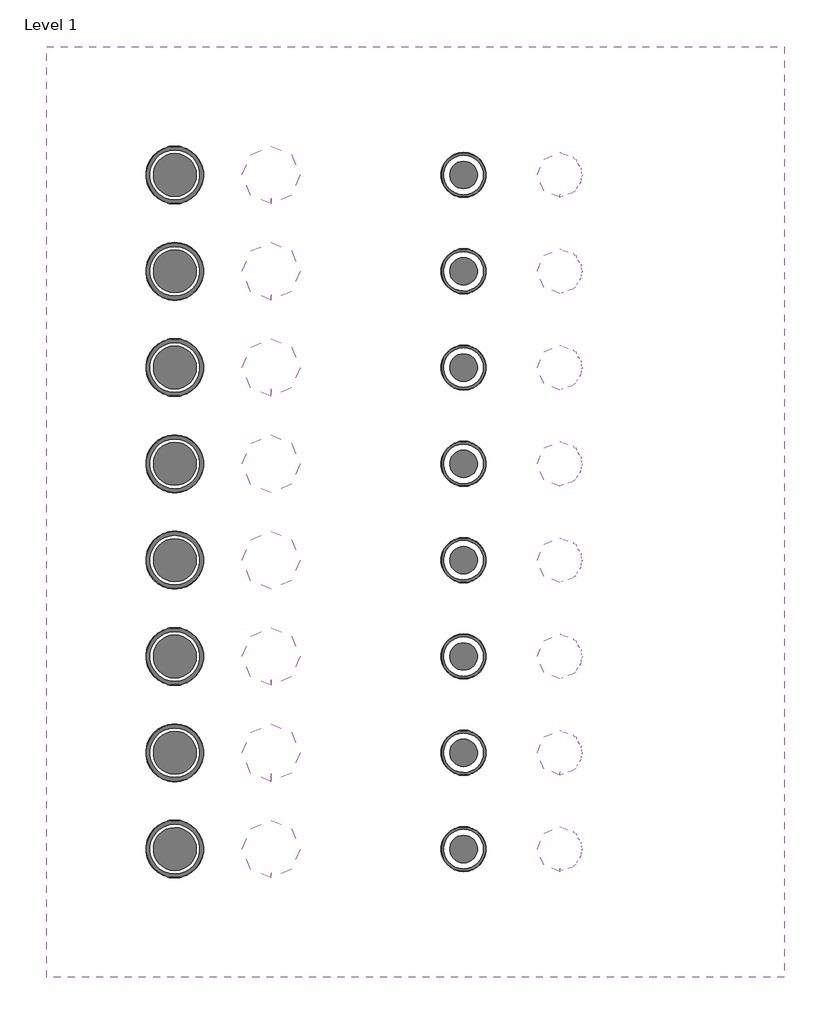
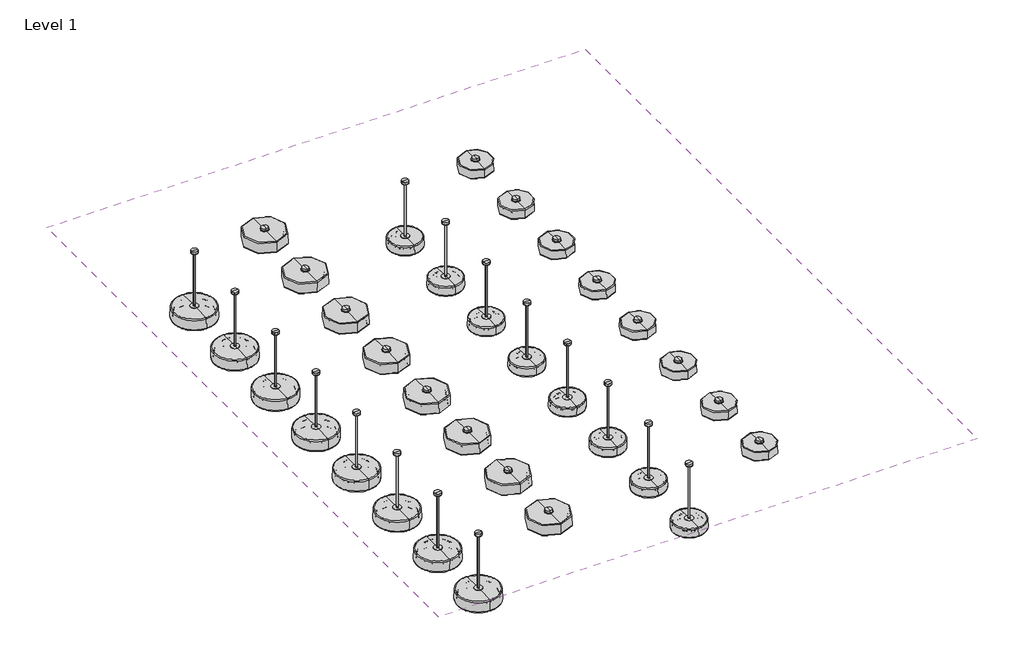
# One storey, incomplete: 32 light fixtures, 1 covering.
"""IFC4 building model written with IfcOpenShell, lengths in millimetres."""

from ifc_helpers import new_model, si_unit, frame, origin, place, context, project, spatial, polyline, outline, extrude, transform, mapped, element, save
from components import light_fixture_47f498ca, light_fixture_287bd3e8, light_fixture_3f8612d6, light_fixture_03dc277a

model = new_model("IFC4")

# Units and contexts
model_context = context("Model", 3, world=origin())
ifc_project = project(units=[si_unit("LENGTHUNIT", "METRE", prefix="MILLI")], contexts=[model_context])

# Site, building, storey
site = spatial("IfcSite", under=ifc_project)
building = spatial("IfcBuilding", under=site)
storey = spatial("IfcBuildingStorey", under=building, Name="Level 1", Elevation=0.0)

# Covering
placement = place(None, origin())
element("IfcCovering", 1, ObjectType="Plain", at=placement, inside=storey, context=model_context, shape_type="SweptSolid", body=[
    extrude(outline(polyline([(3907.6912422, 6634.5769084), (3907.6912422, -7865.4230916), (-7592.3087578, -7865.4230916), (-7592.3087578, 6634.5769084), (3907.6912422, 6634.5769084)])), frame((0.0, 0.0, 2600.0), z_axis=(0.0, 0.0, 1.0), x_axis=(1.0, 0.0, 0.0)), (0.0, 0.0, 1.0), 57.0),
])

# Light fixtures
light_fixture_shape = light_fixture_47f498ca(model_context)
element("IfcLightFixture", 2, ObjectType="MARSET_Interior-Lighting-Fixture_Face-Based_Ringo-70C : A732-001-53-3CCT", at=placement, inside=storey, context=model_context, shape_type="MappedRepresentation", body=[
    mapped(light_fixture_shape, transform((407.6912422, 4634.5769084, 2600.0), x_axis=(1.0, 0.0, 0.0), y_axis=(0.0, -1.0, 0.0), z_axis=(0.0, 0.0, -1.0))),
])
element("IfcLightFixture", 3, ObjectType="MARSET_Interior-Lighting-Fixture_Face-Based_Ringo-70C : A732-001-62-3CCT", at=placement, inside=storey, context=model_context, shape_type="MappedRepresentation", body=[
    mapped(light_fixture_shape, transform((407.6912422, 1634.5769084, 2600.0), x_axis=(1.0, 0.0, 0.0), y_axis=(0.0, -1.0, 0.0), z_axis=(0.0, 0.0, -1.0))),
])
element("IfcLightFixture", 4, ObjectType="MARSET_Interior-Lighting-Fixture_Face-Based_Ringo-70C : A732-001-63-3CCT", at=placement, inside=storey, context=model_context, shape_type="MappedRepresentation", body=[
    mapped(light_fixture_shape, transform((407.6912422, 134.5769084, 2600.0), x_axis=(1.0, 0.0, 0.0), y_axis=(0.0, -1.0, 0.0), z_axis=(0.0, 0.0, -1.0))),
])
element("IfcLightFixture", 5, ObjectType="MARSET_Interior-Lighting-Fixture_Face-Based_Ringo-70C : A732-001-57-3CCT", at=placement, inside=storey, context=model_context, shape_type="MappedRepresentation", body=[
    mapped(light_fixture_shape, transform((407.6912422, 3134.5769084, 2600.0), x_axis=(1.0, 0.0, 0.0), y_axis=(0.0, -1.0, 0.0), z_axis=(0.0, 0.0, -1.0))),
])
element("IfcLightFixture", 6, ObjectType="MARSET_Interior-Lighting-Fixture_Face-Based_Ringo-70C : A732-002-53-3CCT", at=placement, inside=storey, context=model_context, shape_type="MappedRepresentation", body=[
    mapped(light_fixture_shape, transform((407.6912422, -1365.4230916, 2600.0), x_axis=(1.0, 0.0, 0.0), y_axis=(0.0, -1.0, 0.0), z_axis=(0.0, 0.0, -1.0))),
])
element("IfcLightFixture", 7, ObjectType="MARSET_Interior-Lighting-Fixture_Face-Based_Ringo-70C : A732-002-62-3CCT", at=placement, inside=storey, context=model_context, shape_type="MappedRepresentation", body=[
    mapped(light_fixture_shape, transform((407.6912422, -4365.4230916, 2600.0), x_axis=(1.0, 0.0, 0.0), y_axis=(0.0, -1.0, 0.0), z_axis=(0.0, 0.0, -1.0))),
])
element("IfcLightFixture", 8, ObjectType="MARSET_Interior-Lighting-Fixture_Face-Based_Ringo-70C : A732-002-63-3CCT", at=placement, inside=storey, context=model_context, shape_type="MappedRepresentation", body=[
    mapped(light_fixture_shape, transform((407.6912422, -5865.4230916, 2600.0), x_axis=(1.0, 0.0, 0.0), y_axis=(0.0, -1.0, 0.0), z_axis=(0.0, 0.0, -1.0))),
])
element("IfcLightFixture", 9, ObjectType="MARSET_Interior-Lighting-Fixture_Face-Based_Ringo-70C : A732-002-57-3CCT", at=placement, inside=storey, context=model_context, shape_type="MappedRepresentation", body=[
    mapped(light_fixture_shape, transform((407.6912422, -2865.4230916, 2600.0), x_axis=(1.0, 0.0, 0.0), y_axis=(0.0, -1.0, 0.0), z_axis=(0.0, 0.0, -1.0))),
])
light_fixture_2_shape = light_fixture_287bd3e8(model_context)
element("IfcLightFixture", 10, ObjectType="MARSET_Interior-Lighting-Fixture_Face-Based_Ringo-90C : A732-003-53-3CCT", at=placement, inside=storey, context=model_context, shape_type="MappedRepresentation", body=[
    mapped(light_fixture_2_shape, transform((-4092.3087578, 4634.5769084, 2600.0), x_axis=(1.0, 0.0, 0.0), y_axis=(0.0, -1.0, 0.0), z_axis=(0.0, 0.0, -1.0))),
])
element("IfcLightFixture", 11, ObjectType="MARSET_Interior-Lighting-Fixture_Face-Based_Ringo-90C : A732-003-62-3CCT", at=placement, inside=storey, context=model_context, shape_type="MappedRepresentation", body=[
    mapped(light_fixture_2_shape, transform((-4092.3087578, 1634.5769084, 2600.0), x_axis=(1.0, 0.0, 0.0), y_axis=(0.0, -1.0, 0.0), z_axis=(0.0, 0.0, -1.0))),
])
element("IfcLightFixture", 12, ObjectType="MARSET_Interior-Lighting-Fixture_Face-Based_Ringo-90C : A732-003-63-3CCT", at=placement, inside=storey, context=model_context, shape_type="MappedRepresentation", body=[
    mapped(light_fixture_2_shape, transform((-4092.3087578, 134.5769084, 2600.0), x_axis=(1.0, 0.0, 0.0), y_axis=(0.0, -1.0, 0.0), z_axis=(0.0, 0.0, -1.0))),
])
element("IfcLightFixture", 13, ObjectType="MARSET_Interior-Lighting-Fixture_Face-Based_Ringo-90C : A732-003-57-3CCT", at=placement, inside=storey, context=model_context, shape_type="MappedRepresentation", body=[
    mapped(light_fixture_2_shape, transform((-4092.3087578, 3134.5769084, 2600.0), x_axis=(1.0, 0.0, 0.0), y_axis=(0.0, -1.0, 0.0), z_axis=(0.0, 0.0, -1.0))),
])
element("IfcLightFixture", 14, ObjectType="MARSET_Interior-Lighting-Fixture_Face-Based_Ringo-90C : A732-004-53-3CCT", at=placement, inside=storey, context=model_context, shape_type="MappedRepresentation", body=[
    mapped(light_fixture_2_shape, transform((-4092.3087578, -1365.4230916, 2600.0), x_axis=(1.0, 0.0, 0.0), y_axis=(0.0, -1.0, 0.0), z_axis=(0.0, 0.0, -1.0))),
])
element("IfcLightFixture", 15, ObjectType="MARSET_Interior-Lighting-Fixture_Face-Based_Ringo-90C : A732-004-62-3CCT", at=placement, inside=storey, context=model_context, shape_type="MappedRepresentation", body=[
    mapped(light_fixture_2_shape, transform((-4092.3087578, -4365.4230916, 2600.0), x_axis=(1.0, 0.0, 0.0), y_axis=(0.0, -1.0, 0.0), z_axis=(0.0, 0.0, -1.0))),
])
element("IfcLightFixture", 16, ObjectType="MARSET_Interior-Lighting-Fixture_Face-Based_Ringo-90C : A732-004-63-3CCT", at=placement, inside=storey, context=model_context, shape_type="MappedRepresentation", body=[
    mapped(light_fixture_2_shape, transform((-4092.3087578, -5865.4230916, 2600.0), x_axis=(1.0, 0.0, 0.0), y_axis=(0.0, -1.0, 0.0), z_axis=(0.0, 0.0, -1.0))),
])
element("IfcLightFixture", 17, ObjectType="MARSET_Interior-Lighting-Fixture_Face-Based_Ringo-90C : A732-004-57-3CCT", at=placement, inside=storey, context=model_context, shape_type="MappedRepresentation", body=[
    mapped(light_fixture_2_shape, transform((-4092.3087578, -2865.4230916, 2600.0), x_axis=(1.0, 0.0, 0.0), y_axis=(0.0, -1.0, 0.0), z_axis=(0.0, 0.0, -1.0))),
])
light_fixture_3_shape = light_fixture_3f8612d6(model_context)
element("IfcLightFixture", 18, ObjectType="MARSET_Interior-Lighting-Fixture_Face-Based_Ringo-90C-Fixed-Stem : A732-011-53-3CCT", at=placement, inside=storey, context=model_context, shape_type="MappedRepresentation", body=[
    mapped(light_fixture_3_shape, transform((-5592.3087578, 4634.5769084, 2600.0), x_axis=(1.0, 0.0, 0.0), y_axis=(0.0, -1.0, 0.0), z_axis=(0.0, 0.0, -1.0))),
])
element("IfcLightFixture", 19, ObjectType="MARSET_Interior-Lighting-Fixture_Face-Based_Ringo-90C-Fixed-Stem : A732-011-62-3CCT", at=placement, inside=storey, context=model_context, shape_type="MappedRepresentation", body=[
    mapped(light_fixture_3_shape, transform((-5592.3087578, 1634.5769084, 2600.0), x_axis=(1.0, 0.0, 0.0), y_axis=(0.0, -1.0, 0.0), z_axis=(0.0, 0.0, -1.0))),
])
element("IfcLightFixture", 20, ObjectType="MARSET_Interior-Lighting-Fixture_Face-Based_Ringo-90C-Fixed-Stem : A732-011-63-3CCT", at=placement, inside=storey, context=model_context, shape_type="MappedRepresentation", body=[
    mapped(light_fixture_3_shape, transform((-5592.3087578, 134.5769084, 2600.0), x_axis=(1.0, 0.0, 0.0), y_axis=(0.0, -1.0, 0.0), z_axis=(0.0, 0.0, -1.0))),
])
element("IfcLightFixture", 21, ObjectType="MARSET_Interior-Lighting-Fixture_Face-Based_Ringo-90C-Fixed-Stem : A732-011-57-3CCT", at=placement, inside=storey, context=model_context, shape_type="MappedRepresentation", body=[
    mapped(light_fixture_3_shape, transform((-5592.3087578, 3134.5769084, 2600.0), x_axis=(1.0, 0.0, 0.0), y_axis=(0.0, -1.0, 0.0), z_axis=(0.0, 0.0, -1.0))),
])
element("IfcLightFixture", 22, ObjectType="MARSET_Interior-Lighting-Fixture_Face-Based_Ringo-90C-Fixed-Stem : A732-012-53-3CCT", at=placement, inside=storey, context=model_context, shape_type="MappedRepresentation", body=[
    mapped(light_fixture_3_shape, transform((-5592.3087578, -1365.4230916, 2600.0), x_axis=(1.0, 0.0, 0.0), y_axis=(0.0, -1.0, 0.0), z_axis=(0.0, 0.0, -1.0))),
])
element("IfcLightFixture", 23, ObjectType="MARSET_Interior-Lighting-Fixture_Face-Based_Ringo-90C-Fixed-Stem : A732-012-62-3CCT", at=placement, inside=storey, context=model_context, shape_type="MappedRepresentation", body=[
    mapped(light_fixture_3_shape, transform((-5592.3087578, -4365.4230916, 2600.0), x_axis=(1.0, 0.0, 0.0), y_axis=(0.0, -1.0, 0.0), z_axis=(0.0, 0.0, -1.0))),
])
element("IfcLightFixture", 24, ObjectType="MARSET_Interior-Lighting-Fixture_Face-Based_Ringo-90C-Fixed-Stem : A732-012-63-3CCT", at=placement, inside=storey, context=model_context, shape_type="MappedRepresentation", body=[
    mapped(light_fixture_3_shape, transform((-5592.3087578, -5865.4230916, 2600.0), x_axis=(1.0, 0.0, 0.0), y_axis=(0.0, -1.0, 0.0), z_axis=(0.0, 0.0, -1.0))),
])
element("IfcLightFixture", 25, ObjectType="MARSET_Interior-Lighting-Fixture_Face-Based_Ringo-90C-Fixed-Stem : A732-012-57-3CCT", at=placement, inside=storey, context=model_context, shape_type="MappedRepresentation", body=[
    mapped(light_fixture_3_shape, transform((-5592.3087578, -2865.4230916, 2600.0), x_axis=(1.0, 0.0, 0.0), y_axis=(0.0, -1.0, 0.0), z_axis=(0.0, 0.0, -1.0))),
])
light_fixture_4_shape = light_fixture_03dc277a(model_context)
element("IfcLightFixture", 26, ObjectType="MARSET_Interior-Lighting-Fixture_Face-Based_Ringo-70C-Fixed-Stem : A732-009-53-3CCT", at=placement, inside=storey, context=model_context, shape_type="MappedRepresentation", body=[
    mapped(light_fixture_4_shape, transform((-1092.3087578, 4634.5769084, 2600.0), x_axis=(1.0, 0.0, 0.0), y_axis=(0.0, -1.0, 0.0), z_axis=(0.0, 0.0, -1.0))),
])
element("IfcLightFixture", 27, ObjectType="MARSET_Interior-Lighting-Fixture_Face-Based_Ringo-70C-Fixed-Stem : A732-009-62-3CCT", at=placement, inside=storey, context=model_context, shape_type="MappedRepresentation", body=[
    mapped(light_fixture_4_shape, transform((-1092.3087578, 1634.5769084, 2600.0), x_axis=(1.0, 0.0, 0.0), y_axis=(0.0, -1.0, 0.0), z_axis=(0.0, 0.0, -1.0))),
])
element("IfcLightFixture", 28, ObjectType="MARSET_Interior-Lighting-Fixture_Face-Based_Ringo-70C-Fixed-Stem : A732-009-63-3CCT", at=placement, inside=storey, context=model_context, shape_type="MappedRepresentation", body=[
    mapped(light_fixture_4_shape, transform((-1092.3087578, 134.5769084, 2600.0), x_axis=(1.0, 0.0, 0.0), y_axis=(0.0, -1.0, 0.0), z_axis=(0.0, 0.0, -1.0))),
])
element("IfcLightFixture", 29, ObjectType="MARSET_Interior-Lighting-Fixture_Face-Based_Ringo-70C-Fixed-Stem : A732-009-57-3CCT", at=placement, inside=storey, context=model_context, shape_type="MappedRepresentation", body=[
    mapped(light_fixture_4_shape, transform((-1092.3087578, 3134.5769084, 2600.0), x_axis=(1.0, 0.0, 0.0), y_axis=(0.0, -1.0, 0.0), z_axis=(0.0, 0.0, -1.0))),
])
element("IfcLightFixture", 30, ObjectType="MARSET_Interior-Lighting-Fixture_Face-Based_Ringo-70C-Fixed-Stem : A732-010-53-3CCT", at=placement, inside=storey, context=model_context, shape_type="MappedRepresentation", body=[
    mapped(light_fixture_4_shape, transform((-1092.3087578, -1365.4230916, 2600.0), x_axis=(1.0, 0.0, 0.0), y_axis=(0.0, -1.0, 0.0), z_axis=(0.0, 0.0, -1.0))),
])
element("IfcLightFixture", 31, ObjectType="MARSET_Interior-Lighting-Fixture_Face-Based_Ringo-70C-Fixed-Stem : A732-010-62-3CCT", at=placement, inside=storey, context=model_context, shape_type="MappedRepresentation", body=[
    mapped(light_fixture_4_shape, transform((-1092.3087578, -4365.4230916, 2600.0), x_axis=(1.0, 0.0, 0.0), y_axis=(0.0, -1.0, 0.0), z_axis=(0.0, 0.0, -1.0))),
])
element("IfcLightFixture", 32, ObjectType="MARSET_Interior-Lighting-Fixture_Face-Based_Ringo-70C-Fixed-Stem : A732-010-63-3CCT", at=placement, inside=storey, context=model_context, shape_type="MappedRepresentation", body=[
    mapped(light_fixture_4_shape, transform((-1092.3087578, -5865.4230916, 2600.0), x_axis=(1.0, 0.0, 0.0), y_axis=(0.0, -1.0, 0.0), z_axis=(0.0, 0.0, -1.0))),
])
element("IfcLightFixture", 33, ObjectType="MARSET_Interior-Lighting-Fixture_Face-Based_Ringo-70C-Fixed-Stem : A732-010-57-3CCT", at=placement, inside=storey, context=model_context, shape_type="MappedRepresentation", body=[
    mapped(light_fixture_4_shape, transform((-1092.3087578, -2865.4230916, 2600.0), x_axis=(1.0, 0.0, 0.0), y_axis=(0.0, -1.0, 0.0), z_axis=(0.0, 0.0, -1.0))),
])

save(model, "model.ifc")
